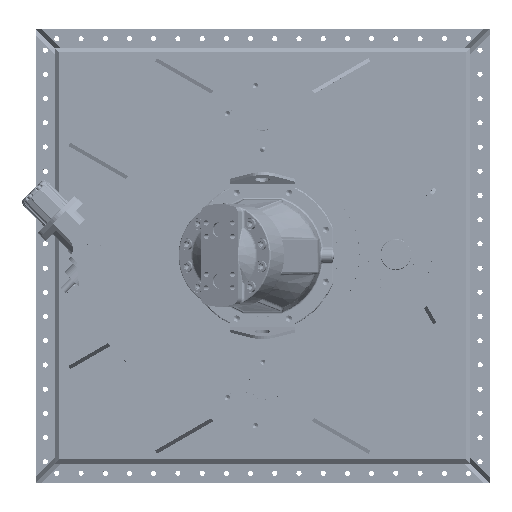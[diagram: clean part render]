
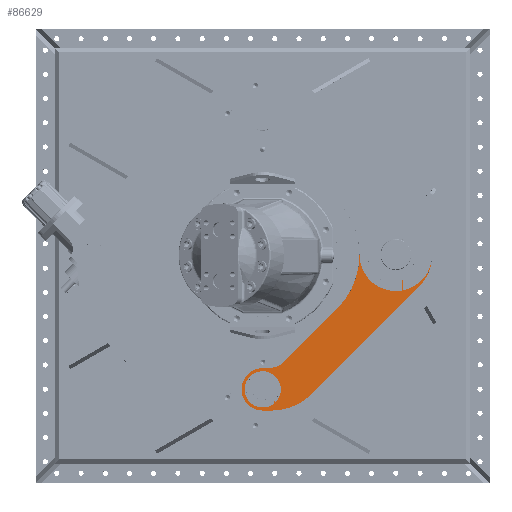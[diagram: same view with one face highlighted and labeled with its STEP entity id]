
A CAD part, top view. The second image highlights one B-rep face of the part: STEP entity #86629.
In plain terms, the highlighted planar face has unit normal (0, 0, 1).
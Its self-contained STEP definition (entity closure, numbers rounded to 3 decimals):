
#694=FACE_BOUND('',#22542,.T.);
#5027=LINE('',#126212,#10478);
#5055=LINE('',#126339,#10506);
#5095=LINE('',#126552,#10546);
#5096=LINE('',#126556,#10547);
#5097=LINE('',#126560,#10548);
#5098=LINE('',#126564,#10549);
#10478=VECTOR('',#101375,10.);
#10506=VECTOR('',#101507,10.);
#10546=VECTOR('',#101737,10.);
#10547=VECTOR('',#101740,10.);
#10548=VECTOR('',#101743,10.);
#10549=VECTOR('',#101746,10.);
#17595=FACE_OUTER_BOUND('',#22541,.T.);
#22541=EDGE_LOOP('',(#55395,#55396,#55397,#55398,#55399,#55400,#55401,#55402,
#55403,#55404,#55405,#55406,#55407,#55408));
#22542=EDGE_LOOP('',(#55409,#55410));
#28488=CIRCLE('',#91707,52.633);
#28489=CIRCLE('',#91709,52.633);
#28502=CIRCLE('',#91725,120.);
#28538=CIRCLE('',#91781,120.);
#28581=CIRCLE('',#91857,87.5);
#28582=CIRCLE('',#91858,251.421);
#28583=CIRCLE('',#91859,75.);
#28584=CIRCLE('',#91860,70.);
#28585=CIRCLE('',#91861,187.);
#28586=CIRCLE('',#91862,150.);
#33414=VERTEX_POINT('',#126160);
#33416=VERTEX_POINT('',#126172);
#33426=VERTEX_POINT('',#126209);
#33427=VERTEX_POINT('',#126211);
#33440=VERTEX_POINT('',#126241);
#33461=VERTEX_POINT('',#126308);
#33474=VERTEX_POINT('',#126337);
#33488=VERTEX_POINT('',#126376);
#33539=VERTEX_POINT('',#126549);
#33540=VERTEX_POINT('',#126551);
#33541=VERTEX_POINT('',#126553);
#33542=VERTEX_POINT('',#126555);
#33543=VERTEX_POINT('',#126557);
#33544=VERTEX_POINT('',#126559);
#33545=VERTEX_POINT('',#126561);
#33546=VERTEX_POINT('',#126563);
#42000=EDGE_CURVE('',#33416,#33414,#28488,.T.);
#42001=EDGE_CURVE('',#33414,#33416,#28489,.T.);
#42007=EDGE_CURVE('',#33427,#33426,#5027,.T.);
#42022=EDGE_CURVE('',#33440,#33427,#28502,.T.);
#42070=EDGE_CURVE('',#33461,#33474,#5055,.T.);
#42090=EDGE_CURVE('',#33474,#33488,#28538,.T.);
#42169=EDGE_CURVE('',#33426,#33461,#28581,.T.);
#42170=EDGE_CURVE('',#33488,#33539,#28582,.T.);
#42171=EDGE_CURVE('',#33539,#33540,#5095,.T.);
#42172=EDGE_CURVE('',#33541,#33540,#28583,.T.);
#42173=EDGE_CURVE('',#33541,#33542,#5096,.T.);
#42174=EDGE_CURVE('',#33542,#33543,#28584,.T.);
#42175=EDGE_CURVE('',#33543,#33544,#5097,.T.);
#42176=EDGE_CURVE('',#33545,#33544,#28585,.T.);
#42177=EDGE_CURVE('',#33545,#33546,#5098,.T.);
#42178=EDGE_CURVE('',#33546,#33440,#28586,.T.);
#55395=ORIENTED_EDGE('',*,*,#42007,.T.);
#55396=ORIENTED_EDGE('',*,*,#42169,.T.);
#55397=ORIENTED_EDGE('',*,*,#42070,.T.);
#55398=ORIENTED_EDGE('',*,*,#42090,.T.);
#55399=ORIENTED_EDGE('',*,*,#42170,.T.);
#55400=ORIENTED_EDGE('',*,*,#42171,.T.);
#55401=ORIENTED_EDGE('',*,*,#42172,.F.);
#55402=ORIENTED_EDGE('',*,*,#42173,.T.);
#55403=ORIENTED_EDGE('',*,*,#42174,.T.);
#55404=ORIENTED_EDGE('',*,*,#42175,.T.);
#55405=ORIENTED_EDGE('',*,*,#42176,.F.);
#55406=ORIENTED_EDGE('',*,*,#42177,.T.);
#55407=ORIENTED_EDGE('',*,*,#42178,.T.);
#55408=ORIENTED_EDGE('',*,*,#42022,.T.);
#55409=ORIENTED_EDGE('',*,*,#42000,.T.);
#55410=ORIENTED_EDGE('',*,*,#42001,.T.);
#79533=PLANE('',#91856);
#86629=ADVANCED_FACE('',(#17595,#694),#79533,.T.);
#91707=AXIS2_PLACEMENT_3D('',#126197,#101361,#101362);
#91709=AXIS2_PLACEMENT_3D('',#126199,#101365,#101366);
#91725=AXIS2_PLACEMENT_3D('',#126242,#101405,#101406);
#91781=AXIS2_PLACEMENT_3D('',#126378,#101549,#101550);
#91856=AXIS2_PLACEMENT_3D('',#126547,#101731,#101732);
#91857=AXIS2_PLACEMENT_3D('',#126548,#101733,#101734);
#91858=AXIS2_PLACEMENT_3D('',#126550,#101735,#101736);
#91859=AXIS2_PLACEMENT_3D('',#126554,#101738,#101739);
#91860=AXIS2_PLACEMENT_3D('',#126558,#101741,#101742);
#91861=AXIS2_PLACEMENT_3D('',#126562,#101744,#101745);
#91862=AXIS2_PLACEMENT_3D('',#126565,#101747,#101748);
#101361=DIRECTION('center_axis',(0.,0.,
-1.));
#101362=DIRECTION('ref_axis',(0.,1.,0.));
#101365=DIRECTION('center_axis',(0.,0.,
-1.));
#101366=DIRECTION('ref_axis',(0.,1.,0.));
#101375=DIRECTION('',(0.,1.,0.));
#101405=DIRECTION('center_axis',(0.,0.,
-1.));
#101406=DIRECTION('ref_axis',(0.866,0.5,0.));
#101507=DIRECTION('',(0.,-1.,0.));
#101549=DIRECTION('center_axis',(0.,0.,
-1.));
#101550=DIRECTION('ref_axis',(0.866,0.5,0.));
#101731=DIRECTION('center_axis',(0.,0.,
1.));
#101732=DIRECTION('ref_axis',(0.,-1.,0.));
#101733=DIRECTION('center_axis',(0.,0.,
-1.));
#101734=DIRECTION('ref_axis',(0.,-1.,0.));
#101735=DIRECTION('center_axis',(0.,0.,
-1.));
#101736=DIRECTION('ref_axis',(-1.,0.,0.));
#101737=DIRECTION('',(-0.707,-0.707,0.));
#101738=DIRECTION('center_axis',(0.,0.,
1.));
#101739=DIRECTION('ref_axis',(0.383,-0.924,0.));
#101740=DIRECTION('',(-1.,0.,0.));
#101741=DIRECTION('center_axis',(0.,0.,
1.));
#101742=DIRECTION('ref_axis',(0.,1.,0.));
#101743=DIRECTION('',(1.,0.,0.));
#101744=DIRECTION('center_axis',(0.,0.,
-1.));
#101745=DIRECTION('ref_axis',(0.383,-0.924,0.));
#101746=DIRECTION('',(0.707,0.707,0.));
#101747=DIRECTION('center_axis',(0.,0.,
1.));
#101748=DIRECTION('ref_axis',(0.707,-0.707,0.));
#126160=CARTESIAN_POINT('',(36.99,-482.213,2382.548));
#126172=CARTESIAN_POINT('',(34.796,-484.26,2382.548));
#126197=CARTESIAN_POINT('Origin',(0.,-444.77,
2382.548));
#126199=CARTESIAN_POINT('Origin',(0.,-444.77,
2382.548));
#126209=CARTESIAN_POINT('',(464.,-84.144,2382.548));
#126211=CARTESIAN_POINT('',(464.,-117.576,2382.548));
#126212=CARTESIAN_POINT('',(464.,-237.027,2382.548));
#126241=CARTESIAN_POINT('',(560.,0.,2382.548));
#126242=CARTESIAN_POINT('Origin',(440.,0.,
2382.548));
#126308=CARTESIAN_POINT('',(461.,-84.943,2382.548));
#126337=CARTESIAN_POINT('',(461.,-118.148,2382.548));
#126339=CARTESIAN_POINT('',(461.,-121.556,2382.548));
#126376=CARTESIAN_POINT('',(320.,0.,2382.548));
#126378=CARTESIAN_POINT('Origin',(440.,0.,
2382.548));
#126547=CARTESIAN_POINT('Origin',(252.875,-255.237,2382.548));
#126548=CARTESIAN_POINT('Origin',(440.,0.,
2382.548));
#126549=CARTESIAN_POINT('',(246.36,-177.782,2382.548));
#126550=CARTESIAN_POINT('Origin',(68.579,0.,
2382.548));
#126551=CARTESIAN_POINT('',(71.339,-352.803,2382.548));
#126552=CARTESIAN_POINT('',(246.36,-177.782,2382.548));
#126553=CARTESIAN_POINT('',(18.306,-374.77,2382.548));
#126554=CARTESIAN_POINT('Origin',(18.306,-299.77,2382.548));
#126555=CARTESIAN_POINT('',(0.,-374.77,2382.548));
#126556=CARTESIAN_POINT('',(49.372,-374.77,2382.548));
#126557=CARTESIAN_POINT('',(0.,-514.77,2382.548));
#126558=CARTESIAN_POINT('Origin',(0.,-444.77,
2382.548));
#126559=CARTESIAN_POINT('',(29.904,-514.77,2382.548));
#126560=CARTESIAN_POINT('',(0.,-514.77,2382.548));
#126561=CARTESIAN_POINT('',(162.133,-459.999,2382.548));
#126562=CARTESIAN_POINT('Origin',(29.904,-327.77,2382.548));
#126563=CARTESIAN_POINT('',(516.066,-106.066,2382.548));
#126564=CARTESIAN_POINT('',(107.362,-514.77,2382.548));
#126565=CARTESIAN_POINT('Origin',(410.,0.,
2382.548));
